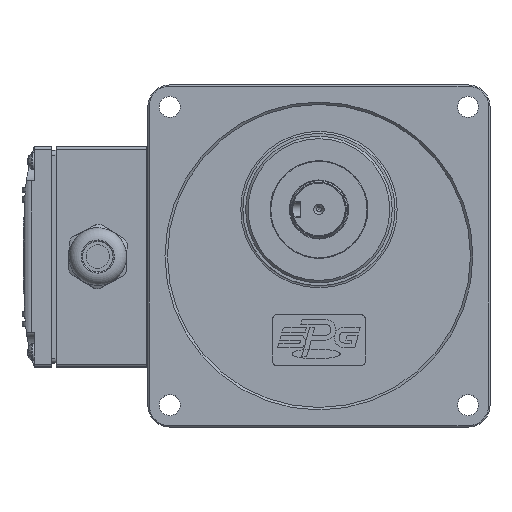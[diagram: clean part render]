
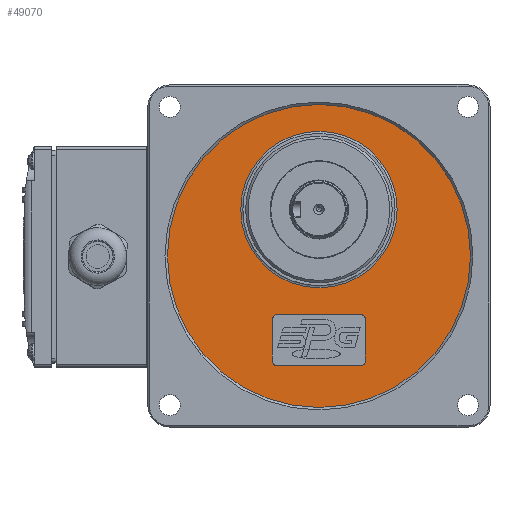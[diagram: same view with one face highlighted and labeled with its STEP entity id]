
A CAD part, top view. The second image highlights one B-rep face of the part: STEP entity #49070.
In plain terms, the highlighted planar face has unit normal (0, 0, 1).
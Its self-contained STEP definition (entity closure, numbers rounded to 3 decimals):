
#1129=FACE_BOUND('',#6791,.T.);
#1130=FACE_BOUND('',#6792,.T.);
#2159=PLANE('',#53341);
#3761=FACE_OUTER_BOUND('',#6790,.T.);
#6790=EDGE_LOOP('',(#36480));
#6791=EDGE_LOOP('',(#36481,#36482,#36483,#36484,#36485,#36486,#36487,#36488));
#6792=EDGE_LOOP('',(#36489));
#9860=CIRCLE('',#53328,2.);
#9861=CIRCLE('',#53331,2.);
#9862=CIRCLE('',#53334,2.);
#9863=CIRCLE('',#53337,2.);
#9864=CIRCLE('',#53339,62.);
#9866=CIRCLE('',#53342,32.);
#13078=LINE('',#79409,#15619);
#13082=LINE('',#79419,#15623);
#13085=LINE('',#79427,#15626);
#13087=LINE('',#79433,#15628);
#15619=VECTOR('',#62721,34.);
#15623=VECTOR('',#62731,17.);
#15626=VECTOR('',#62740,34.);
#15628=VECTOR('',#62748,17.);
#20332=VERTEX_POINT('',#79405);
#20333=VERTEX_POINT('',#79407);
#20334=VERTEX_POINT('',#79411);
#20335=VERTEX_POINT('',#79415);
#20336=VERTEX_POINT('',#79417);
#20337=VERTEX_POINT('',#79423);
#20338=VERTEX_POINT('',#79425);
#20339=VERTEX_POINT('',#79431);
#20340=VERTEX_POINT('',#79437);
#20342=VERTEX_POINT('',#79443);
#25952=EDGE_CURVE('',#20332,#20333,#13078,.T.);
#25954=EDGE_CURVE('',#20334,#20333,#9860,.T.);
#25957=EDGE_CURVE('',#20335,#20336,#13082,.T.);
#25958=EDGE_CURVE('',#20332,#20336,#9861,.T.);
#25961=EDGE_CURVE('',#20337,#20338,#13085,.T.);
#25962=EDGE_CURVE('',#20335,#20338,#9862,.T.);
#25964=EDGE_CURVE('',#20334,#20339,#13087,.T.);
#25965=EDGE_CURVE('',#20337,#20339,#9863,.T.);
#25966=EDGE_CURVE('',#20340,#20340,#9864,.T.);
#25969=EDGE_CURVE('',#20342,#20342,#9866,.T.);
#36480=ORIENTED_EDGE('',*,*,#25966,.T.);
#36481=ORIENTED_EDGE('',*,*,#25957,.T.);
#36482=ORIENTED_EDGE('',*,*,#25958,.F.);
#36483=ORIENTED_EDGE('',*,*,#25952,.T.);
#36484=ORIENTED_EDGE('',*,*,#25954,.F.);
#36485=ORIENTED_EDGE('',*,*,#25964,.T.);
#36486=ORIENTED_EDGE('',*,*,#25965,.F.);
#36487=ORIENTED_EDGE('',*,*,#25961,.T.);
#36488=ORIENTED_EDGE('',*,*,#25962,.F.);
#36489=ORIENTED_EDGE('',*,*,#25969,.F.);
#49070=ADVANCED_FACE('',(#3761,#1129,#1130),#2159,.F.);
#53328=AXIS2_PLACEMENT_3D('',#79413,#62725,#62726);
#53331=AXIS2_PLACEMENT_3D('',#79421,#62734,#62735);
#53334=AXIS2_PLACEMENT_3D('',#79429,#62743,#62744);
#53337=AXIS2_PLACEMENT_3D('',#79435,#62751,#62752);
#53339=AXIS2_PLACEMENT_3D('',#79438,#62755,#62756);
#53341=AXIS2_PLACEMENT_3D('',#79442,#62760,#62761);
#53342=AXIS2_PLACEMENT_3D('',#79444,#62762,#62763);
#62721=DIRECTION('',(1.,0.,0.));
#62725=DIRECTION('center_axis',(0.,0.,1.));
#62726=DIRECTION('ref_axis',(0.707,0.707,0.));
#62731=DIRECTION('',(0.,1.,0.));
#62734=DIRECTION('center_axis',(0.,0.,1.));
#62735=DIRECTION('ref_axis',(-0.707,0.707,0.));
#62740=DIRECTION('',(-1.,0.,0.));
#62743=DIRECTION('center_axis',(0.,0.,1.));
#62744=DIRECTION('ref_axis',(-0.707,-0.707,0.));
#62748=DIRECTION('',(0.,-1.,0.));
#62751=DIRECTION('center_axis',(0.,0.,1.));
#62752=DIRECTION('ref_axis',(0.707,-0.707,0.));
#62755=DIRECTION('center_axis',(0.,0.,1.));
#62756=DIRECTION('ref_axis',(-1.,0.,0.));
#62760=DIRECTION('center_axis',(0.,0.,-1.));
#62761=DIRECTION('ref_axis',(-1.,0.,0.));
#62762=DIRECTION('center_axis',(0.,0.,1.));
#62763=DIRECTION('ref_axis',(-1.,0.,0.));
#79405=CARTESIAN_POINT('',(-26.547,-29.503,23.75));
#79407=CARTESIAN_POINT('',(7.453,-29.503,23.75));
#79409=CARTESIAN_POINT('',(-26.547,-29.503,23.75));
#79411=CARTESIAN_POINT('',(9.453,-31.503,23.75));
#79413=CARTESIAN_POINT('Origin',(7.453,-31.503,23.75));
#79415=CARTESIAN_POINT('',(-28.547,-48.503,23.75));
#79417=CARTESIAN_POINT('',(-28.547,-31.503,23.75));
#79419=CARTESIAN_POINT('',(-28.547,-48.503,23.75));
#79421=CARTESIAN_POINT('Origin',(-26.547,-31.503,23.75));
#79423=CARTESIAN_POINT('',(7.453,-50.503,23.75));
#79425=CARTESIAN_POINT('',(-26.547,-50.503,23.75));
#79427=CARTESIAN_POINT('',(7.453,-50.503,23.75));
#79429=CARTESIAN_POINT('Origin',(-26.547,-48.503,23.75));
#79431=CARTESIAN_POINT('',(9.453,-48.503,23.75));
#79433=CARTESIAN_POINT('',(9.453,-31.503,23.75));
#79435=CARTESIAN_POINT('Origin',(7.453,-48.503,23.75));
#79437=CARTESIAN_POINT('',(52.453,-5.503,23.75));
#79438=CARTESIAN_POINT('Origin',(-9.547,-5.503,23.75));
#79442=CARTESIAN_POINT('Origin',(-9.547,-5.503,23.75));
#79443=CARTESIAN_POINT('',(-41.547,13.497,23.75));
#79444=CARTESIAN_POINT('Origin',(-9.547,13.497,23.75));
